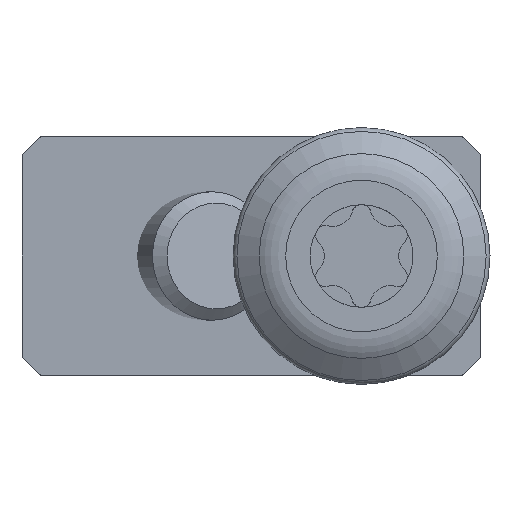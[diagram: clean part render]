
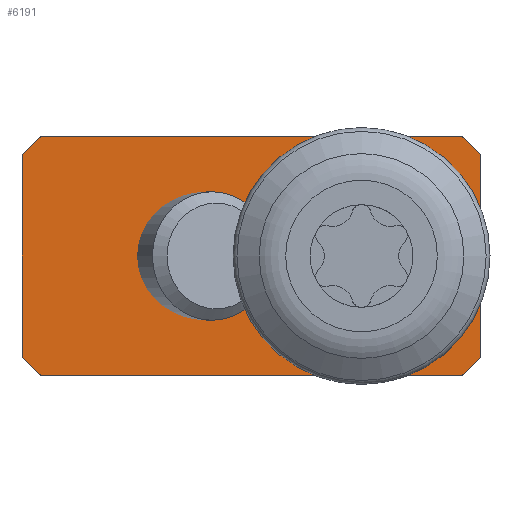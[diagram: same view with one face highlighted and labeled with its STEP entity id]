
A CAD part, front view. The second image highlights one B-rep face of the part: STEP entity #6191.
In plain terms, the highlighted planar face has unit normal (0, -1, 0).
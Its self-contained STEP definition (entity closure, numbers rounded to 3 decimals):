
#102=ELLIPSE('',#6803,3.192,2.96);
#432=LINE('',#9466,#990);
#450=LINE('',#9512,#1008);
#504=LINE('',#9712,#1062);
#576=LINE('',#10003,#1134);
#799=LINE('',#10519,#1357);
#800=LINE('',#10524,#1358);
#801=LINE('',#10529,#1359);
#802=LINE('',#10534,#1360);
#990=VECTOR('',#7363,1000.);
#1008=VECTOR('',#7397,1000.);
#1062=VECTOR('',#7549,1000.);
#1134=VECTOR('',#7775,1000.);
#1357=VECTOR('',#8494,1000.);
#1358=VECTOR('',#8499,1000.);
#1359=VECTOR('',#8504,1000.);
#1360=VECTOR('',#8509,1000.);
#2944=ORIENTED_EDGE('',*,*,#4052,.F.);
#2945=ORIENTED_EDGE('',*,*,#4053,.F.);
#2946=ORIENTED_EDGE('',*,*,#3538,.T.);
#2947=ORIENTED_EDGE('',*,*,#4054,.F.);
#2948=ORIENTED_EDGE('',*,*,#4055,.F.);
#2949=ORIENTED_EDGE('',*,*,#4056,.F.);
#2950=ORIENTED_EDGE('',*,*,#3662,.T.);
#2951=ORIENTED_EDGE('',*,*,#4057,.F.);
#2952=ORIENTED_EDGE('',*,*,#4058,.F.);
#2953=ORIENTED_EDGE('',*,*,#4059,.F.);
#2954=ORIENTED_EDGE('',*,*,#3804,.F.);
#2955=ORIENTED_EDGE('',*,*,#4060,.F.);
#2956=ORIENTED_EDGE('',*,*,#4061,.F.);
#2957=ORIENTED_EDGE('',*,*,#4062,.F.);
#2958=ORIENTED_EDGE('',*,*,#3560,.F.);
#2959=ORIENTED_EDGE('',*,*,#4063,.F.);
#2960=ORIENTED_EDGE('',*,*,#4064,.F.);
#2961=ORIENTED_EDGE('',*,*,#4065,.F.);
#3538=EDGE_CURVE('',#4443,#4442,#432,.T.);
#3560=EDGE_CURVE('',#4463,#4464,#450,.T.);
#3662=EDGE_CURVE('',#4560,#4561,#504,.T.);
#3804=EDGE_CURVE('',#4685,#4686,#576,.T.);
#4052=EDGE_CURVE('',#4712,#4712,#5000,.T.);
#4053=EDGE_CURVE('',#4713,#4713,#102,.F.);
#4054=EDGE_CURVE('',#4714,#4442,#5001,.T.);
#4055=EDGE_CURVE('',#4715,#4714,#799,.T.);
#4056=EDGE_CURVE('',#4560,#4715,#5002,.T.);
#4057=EDGE_CURVE('',#4716,#4561,#5003,.T.);
#4058=EDGE_CURVE('',#4717,#4716,#800,.T.);
#4059=EDGE_CURVE('',#4686,#4717,#5004,.T.);
#4060=EDGE_CURVE('',#4718,#4685,#5005,.T.);
#4061=EDGE_CURVE('',#4719,#4718,#801,.T.);
#4062=EDGE_CURVE('',#4464,#4719,#5006,.T.);
#4063=EDGE_CURVE('',#4720,#4463,#5007,.T.);
#4064=EDGE_CURVE('',#4721,#4720,#802,.T.);
#4065=EDGE_CURVE('',#4443,#4721,#5008,.T.);
#4442=VERTEX_POINT('',#9465);
#4443=VERTEX_POINT('',#9467);
#4463=VERTEX_POINT('',#9513);
#4464=VERTEX_POINT('',#9514);
#4560=VERTEX_POINT('',#9713);
#4561=VERTEX_POINT('',#9714);
#4685=VERTEX_POINT('',#10002);
#4686=VERTEX_POINT('',#10004);
#4712=VERTEX_POINT('',#10514);
#4713=VERTEX_POINT('',#10516);
#4714=VERTEX_POINT('',#10518);
#4715=VERTEX_POINT('',#10520);
#4716=VERTEX_POINT('',#10523);
#4717=VERTEX_POINT('',#10525);
#4718=VERTEX_POINT('',#10528);
#4719=VERTEX_POINT('',#10530);
#4720=VERTEX_POINT('',#10533);
#4721=VERTEX_POINT('',#10535);
#5000=CIRCLE('',#6802,4.55);
#5001=CIRCLE('',#6804,0.2);
#5002=CIRCLE('',#6805,0.2);
#5003=CIRCLE('',#6806,0.2);
#5004=CIRCLE('',#6807,0.2);
#5005=CIRCLE('',#6808,0.2);
#5006=CIRCLE('',#6809,0.2);
#5007=CIRCLE('',#6810,0.2);
#5008=CIRCLE('',#6811,0.2);
#5324=EDGE_LOOP('',(#2944));
#5325=EDGE_LOOP('',(#2945));
#5326=EDGE_LOOP('',(#2946,#2947,#2948,#2949,#2950,#2951,#2952,#2953,#2954,
#2955,#2956,#2957,#2958,#2959,#2960,#2961));
#5680=FACE_BOUND('',#5324,.T.);
#5681=FACE_BOUND('',#5325,.T.);
#5682=FACE_BOUND('',#5326,.T.);
#5904=PLANE('',#6801);
#6191=ADVANCED_FACE('',(#5680,#5681,#5682),#5904,.F.);
#6801=AXIS2_PLACEMENT_3D('',#10512,#8486,#8487);
#6802=AXIS2_PLACEMENT_3D('',#10513,#8488,#8489);
#6803=AXIS2_PLACEMENT_3D('',#10515,#8490,#8491);
#6804=AXIS2_PLACEMENT_3D('',#10517,#8492,#8493);
#6805=AXIS2_PLACEMENT_3D('',#10521,#8495,#8496);
#6806=AXIS2_PLACEMENT_3D('',#10522,#8497,#8498);
#6807=AXIS2_PLACEMENT_3D('',#10526,#8500,#8501);
#6808=AXIS2_PLACEMENT_3D('',#10527,#8502,#8503);
#6809=AXIS2_PLACEMENT_3D('',#10531,#8505,#8506);
#6810=AXIS2_PLACEMENT_3D('',#10532,#8507,#8508);
#6811=AXIS2_PLACEMENT_3D('',#10536,#8510,#8511);
#7363=DIRECTION('',(0.,0.,-1.));
#7397=DIRECTION('',(1.,0.,0.));
#7549=DIRECTION('',(1.,0.,0.));
#7775=DIRECTION('',(0.,0.,-1.));
#8486=DIRECTION('',(0.,1.,0.));
#8487=DIRECTION('',(0.,0.,1.));
#8488=DIRECTION('',(0.,-1.,0.));
#8489=DIRECTION('',(0.,0.,-1.));
#8490=DIRECTION('',(0.,1.,0.));
#8491=DIRECTION('',(1.,0.,0.));
#8492=DIRECTION('',(0.,1.,0.));
#8493=DIRECTION('',(1.,0.,0.));
#8494=DIRECTION('',(-0.707,0.,0.707));
#8495=DIRECTION('',(0.,1.,0.));
#8496=DIRECTION('',(1.,0.,0.));
#8497=DIRECTION('',(0.,1.,0.));
#8498=DIRECTION('',(1.,0.,0.));
#8499=DIRECTION('',(-0.707,0.,-0.707));
#8500=DIRECTION('',(0.,1.,0.));
#8501=DIRECTION('',(1.,0.,0.));
#8502=DIRECTION('',(0.,1.,0.));
#8503=DIRECTION('',(1.,0.,0.));
#8504=DIRECTION('',(0.707,0.,-0.707));
#8505=DIRECTION('',(0.,1.,0.));
#8506=DIRECTION('',(1.,0.,0.));
#8507=DIRECTION('',(0.,1.,0.));
#8508=DIRECTION('',(1.,0.,0.));
#8509=DIRECTION('',(0.707,0.,0.707));
#8510=DIRECTION('',(0.,1.,0.));
#8511=DIRECTION('',(1.,0.,0.));
#9465=CARTESIAN_POINT('',(-6.5,0.,-5.417));
#9466=CARTESIAN_POINT('',(-6.5,0.,6.5));
#9467=CARTESIAN_POINT('',(-6.5,0.,5.417));
#9512=CARTESIAN_POINT('',(-6.5,0.,6.5));
#9513=CARTESIAN_POINT('',(-5.417,0.,6.5));
#9514=CARTESIAN_POINT('',(17.417,0.,6.5));
#9712=CARTESIAN_POINT('',(-6.5,0.,-6.5));
#9713=CARTESIAN_POINT('',(-5.417,0.,-6.5));
#9714=CARTESIAN_POINT('',(17.417,0.,-6.5));
#10002=CARTESIAN_POINT('',(18.5,0.,5.417));
#10003=CARTESIAN_POINT('',(18.5,0.,6.5));
#10004=CARTESIAN_POINT('',(18.5,0.,-5.417));
#10512=CARTESIAN_POINT('',(-6.3,0.,3.975));
#10513=CARTESIAN_POINT('',(0.,0.,0.));
#10514=CARTESIAN_POINT('',(0.,0.,-4.55));
#10515=CARTESIAN_POINT('',(8.218,0.,0.));
#10516=CARTESIAN_POINT('',(11.41,0.,0.));
#10517=CARTESIAN_POINT('',(-6.3,0.,-5.417));
#10518=CARTESIAN_POINT('',(-6.441,0.,-5.559));
#10519=CARTESIAN_POINT('',(-5.559,0.,-6.441));
#10520=CARTESIAN_POINT('',(-5.559,0.,-6.441));
#10521=CARTESIAN_POINT('',(-5.417,0.,-6.3));
#10522=CARTESIAN_POINT('',(17.417,0.,-6.3));
#10523=CARTESIAN_POINT('',(17.559,0.,-6.441));
#10524=CARTESIAN_POINT('',(18.441,0.,-5.559));
#10525=CARTESIAN_POINT('',(18.441,0.,-5.559));
#10526=CARTESIAN_POINT('',(18.3,0.,-5.417));
#10527=CARTESIAN_POINT('',(18.3,0.,5.417));
#10528=CARTESIAN_POINT('',(18.441,0.,5.559));
#10529=CARTESIAN_POINT('',(17.559,0.,6.441));
#10530=CARTESIAN_POINT('',(17.559,0.,6.441));
#10531=CARTESIAN_POINT('',(17.417,0.,6.3));
#10532=CARTESIAN_POINT('',(-5.417,0.,6.3));
#10533=CARTESIAN_POINT('',(-5.559,0.,6.441));
#10534=CARTESIAN_POINT('',(-6.441,0.,5.559));
#10535=CARTESIAN_POINT('',(-6.441,0.,5.559));
#10536=CARTESIAN_POINT('',(-6.3,0.,5.417));
